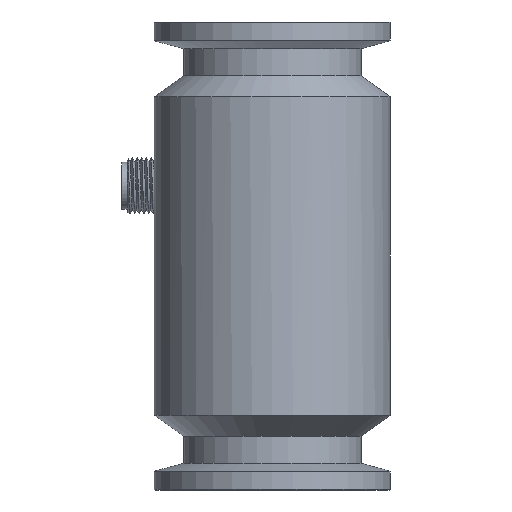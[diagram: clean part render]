
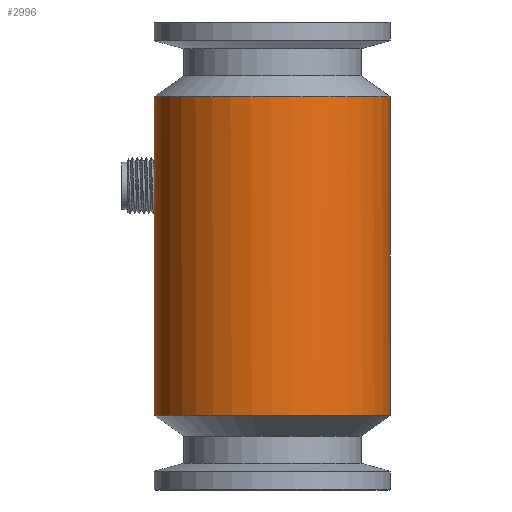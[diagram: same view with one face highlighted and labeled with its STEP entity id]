
A CAD part, front view. The second image highlights one B-rep face of the part: STEP entity #2996.
In plain terms, the highlighted cylindrical face has radius 25.25 mm (diameter 50.5 mm), a full revolution.
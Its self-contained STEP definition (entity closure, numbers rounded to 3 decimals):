
#1594=LINE('',#11932,#1984);
#1595=LINE('',#11933,#1985);
#1984=VECTOR('',#9788,1.);
#1985=VECTOR('',#9789,1.);
#2378=CYLINDRICAL_SURFACE('',#8849,25.25);
#2790=FACE_BOUND('',#3905,.T.);
#2791=FACE_BOUND('',#3906,.T.);
#2792=FACE_BOUND('',#3907,.T.);
#2996=ADVANCED_FACE('',(#2790,#2791,#2792),#2378,.T.);
#3905=EDGE_LOOP('',(#4947));
#3906=EDGE_LOOP('',(#4948,#4949));
#3907=EDGE_LOOP('',(#4950,#4951,#4952,#4953,#4954,#4955));
#4459=CIRCLE('',#8804,25.25);
#4482=CIRCLE('',#8841,25.25);
#4947=ORIENTED_EDGE('',*,*,#7599,.T.);
#4948=ORIENTED_EDGE('',*,*,#7625,.T.);
#4949=ORIENTED_EDGE('',*,*,#7625,.F.);
#4950=ORIENTED_EDGE('',*,*,#7626,.F.);
#4951=ORIENTED_EDGE('',*,*,#7627,.T.);
#4952=ORIENTED_EDGE('',*,*,#7581,.F.);
#4953=ORIENTED_EDGE('',*,*,#7622,.T.);
#4954=ORIENTED_EDGE('',*,*,#7579,.F.);
#4955=ORIENTED_EDGE('',*,*,#7628,.T.);
#6906=VERTEX_POINT('',#11779);
#6907=VERTEX_POINT('',#11780);
#6908=VERTEX_POINT('',#11785);
#6909=VERTEX_POINT('',#11792);
#6926=VERTEX_POINT('',#11835);
#6951=VERTEX_POINT('',#11914);
#6952=VERTEX_POINT('',#11915);
#6953=VERTEX_POINT('',#11930);
#6954=VERTEX_POINT('',#11931);
#7579=EDGE_CURVE('',#6906,#6907,#8594,.T.);
#7581=EDGE_CURVE('',#6908,#6909,#8596,.T.);
#7599=EDGE_CURVE('',#6926,#6926,#4459,.T.);
#7622=EDGE_CURVE('',#6908,#6907,#4482,.T.);
#7625=EDGE_CURVE('',#6951,#6952,#8597,.T.);
#7626=EDGE_CURVE('',#6953,#6954,#8598,.T.);
#7627=EDGE_CURVE('',#6953,#6909,#1594,.T.);
#7628=EDGE_CURVE('',#6906,#6954,#1595,.T.);
#8594=B_SPLINE_CURVE_WITH_KNOTS('',3,(#11773,#11774,#11775,#11776,#11777,
#11778),.UNSPECIFIED.,.F.,.F.,(4,2,4),(0.,0.5,1.),.UNSPECIFIED.);
#8596=B_SPLINE_CURVE_WITH_KNOTS('',3,(#11786,#11787,#11788,#11789,#11790,
#11791),.UNSPECIFIED.,.F.,.F.,(4,2,4),(0.,0.5,1.),.UNSPECIFIED.);
#8597=B_SPLINE_CURVE_WITH_KNOTS('',3,(#11904,#11905,#11906,#11907,#11908,
#11909,#11910,#11911,#11912,#11913),.UNSPECIFIED.,.F.,.F.,(4,2,2,2,4),(0.,
0.25,0.5,0.75,1.),.UNSPECIFIED.);
#8598=B_SPLINE_CURVE_WITH_KNOTS('',3,(#11916,#11917,#11918,#11919,#11920,
#11921,#11922,#11923,#11924,#11925,#11926,#11927,#11928,#11929),
 .UNSPECIFIED.,.F.,.F.,(4,2,2,2,2,2,4),(0.,0.25,0.375,0.5,0.625,0.75,1.),
 .UNSPECIFIED.);
#8804=AXIS2_PLACEMENT_3D('',#11834,#9698,#9699);
#8841=AXIS2_PLACEMENT_3D('',#11894,#9772,#9773);
#8849=AXIS2_PLACEMENT_3D('',#11934,#9790,#9791);
#9698=DIRECTION('',(0.,0.,1.));
#9699=DIRECTION('',(1.,0.,0.));
#9772=DIRECTION('',(0.,0.,-1.));
#9773=DIRECTION('',(-1.,0.,0.));
#9788=DIRECTION('',(0.,0.,1.));
#9789=DIRECTION('',(0.,0.,-1.));
#9790=DIRECTION('',(0.,0.,-1.));
#9791=DIRECTION('',(-1.,0.,0.));
#11773=CARTESIAN_POINT('',(-14.02,21.,-9.842));
#11774=CARTESIAN_POINT('',(-13.279,21.495,-7.586));
#11775=CARTESIAN_POINT('',(-12.228,22.144,-5.476));
#11776=CARTESIAN_POINT('',(-9.471,23.456,-1.757));
#11777=CARTESIAN_POINT('',(-7.753,24.127,-0.128));
#11778=CARTESIAN_POINT('',(-5.648,24.61,1.));
#11779=CARTESIAN_POINT('',(-14.02,21.,-9.842));
#11780=CARTESIAN_POINT('',(-5.648,24.61,1.));
#11785=CARTESIAN_POINT('',(5.631,24.614,1.));
#11786=CARTESIAN_POINT('',(5.631,24.614,1.));
#11787=CARTESIAN_POINT('',(7.729,24.134,-0.124));
#11788=CARTESIAN_POINT('',(9.471,23.456,-1.773));
#11789=CARTESIAN_POINT('',(12.24,22.138,-5.523));
#11790=CARTESIAN_POINT('',(13.288,21.489,-7.652));
#11791=CARTESIAN_POINT('',(14.02,21.,-9.896));
#11792=CARTESIAN_POINT('',(14.02,21.,-9.896));
#11834=CARTESIAN_POINT('',(0.,0.,-67.));
#11835=CARTESIAN_POINT('',(25.25,0.,-67.));
#11894=CARTESIAN_POINT('',(0.,0.,1.));
#11904=CARTESIAN_POINT('',(14.02,21.,-32.971));
#11905=CARTESIAN_POINT('',(12.263,22.173,-34.618));
#11906=CARTESIAN_POINT('',(10.162,23.25,-36.004));
#11907=CARTESIAN_POINT('',(5.4,24.792,-37.96));
#11908=CARTESIAN_POINT('',(2.717,25.246,-38.515));
#11909=CARTESIAN_POINT('',(-2.645,25.254,-38.528));
#11910=CARTESIAN_POINT('',(-5.343,24.807,-37.987));
#11911=CARTESIAN_POINT('',(-10.148,23.259,-36.033));
#11912=CARTESIAN_POINT('',(-12.261,22.175,-34.643));
#11913=CARTESIAN_POINT('',(-14.02,21.,-33.));
#11914=CARTESIAN_POINT('',(14.02,21.,-32.971));
#11915=CARTESIAN_POINT('',(-14.02,21.,-33.));
#11916=CARTESIAN_POINT('',(14.02,21.,-26.104));
#11917=CARTESIAN_POINT('',(12.981,21.694,-29.291));
#11918=CARTESIAN_POINT('',(11.365,22.689,-32.172));
#11919=CARTESIAN_POINT('',(7.83,24.038,-35.645));
#11920=CARTESIAN_POINT('',(6.485,24.453,-36.629));
#11921=CARTESIAN_POINT('',(3.42,25.066,-38.049));
#11922=CARTESIAN_POINT('',(1.725,25.248,-38.451));
#11923=CARTESIAN_POINT('',(-1.668,25.252,-38.463));
#11924=CARTESIAN_POINT('',(-3.37,25.073,-38.069));
#11925=CARTESIAN_POINT('',(-6.435,24.466,-36.67));
#11926=CARTESIAN_POINT('',(-7.786,24.053,-35.694));
#11927=CARTESIAN_POINT('',(-11.333,22.705,-32.242));
#11928=CARTESIAN_POINT('',(-12.973,21.699,-29.343));
#11929=CARTESIAN_POINT('',(-14.02,21.,-26.158));
#11930=CARTESIAN_POINT('',(14.02,21.,-26.104));
#11931=CARTESIAN_POINT('',(-14.02,21.,-26.158));
#11932=CARTESIAN_POINT('',(14.02,21.,119.));
#11933=CARTESIAN_POINT('',(-14.02,21.,119.));
#11934=CARTESIAN_POINT('',(0.,0.,119.));
